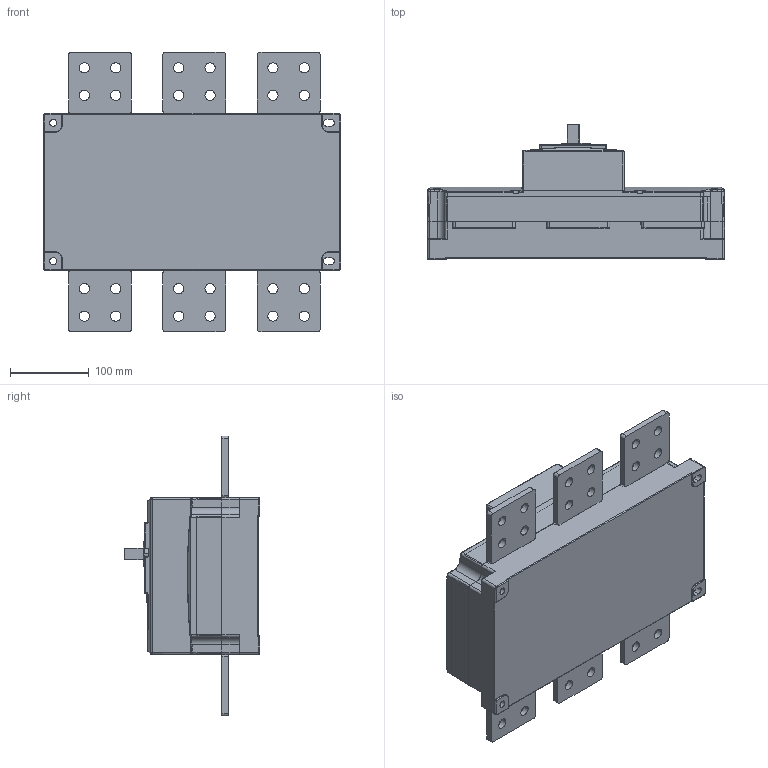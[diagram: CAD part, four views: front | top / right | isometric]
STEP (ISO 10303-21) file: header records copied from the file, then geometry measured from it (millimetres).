
FILE_DESCRIPTION((''),'2;1');
FILE_NAME('NH40-1600-32020_ASM','2020-10-07T',('zhuanghy'),(''),'PRO/ENGINEER BY PARAMETRIC TECHNOLOGY CORPORATION, 2008380','PRO/ENGINEER BY PARAMETRIC TECHNOLOGY CORPORATION, 2008380','');
FILE_SCHEMA(('CONFIG_CONTROL_DESIGN'));
Length unit declared in the file: millimetre
Products named in the file (11): PRT0018; PRT0019; PRT0020; PRT0021; PRT0022; ASM0013_ASM; ASM0012_ASM; ASM0011_ASM; ASM0010_ASM; ASM0009_ASM; NH40-1600-32020_ASM
Assembly tree (15 placements, depth 7):
  NH40-1600-32020_ASM
    ASM0009_ASM
      ASM0010_ASM
        ASM0011_ASM
          ASM0012_ASM
            ASM0013_ASM
              PRT0018
              PRT0019
              PRT0020
              PRT0021  x6
              PRT0022
Bounding box: 378 x 172 x 356 mm (x, y, z)
Volume: 7370880.9 mm3; surface area: 854387.1 mm2
Topology: 36 solids, 39 shells, 1398 faces, 3705 edges, 2369 vertices
Faces by surface type: plane 615, cylinder 512, torus 114, bspline 94, sphere 43, cone 20
Entity records: 48866 total; most frequent: CARTESIAN_POINT 18116, ORIENTED_EDGE 6541, DIRECTION 6222, EDGE_CURVE 3274, AXIS2_PLACEMENT_3D 2267, VERTEX_POINT 2109, VECTOR 1688, LINE 1688
